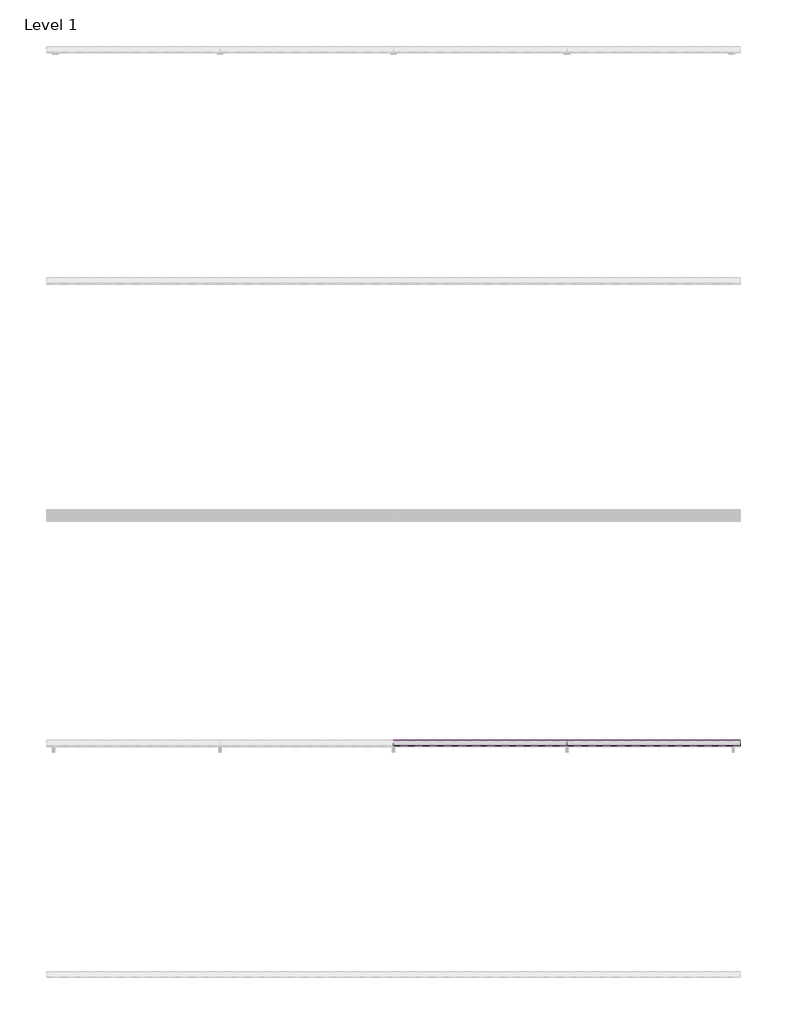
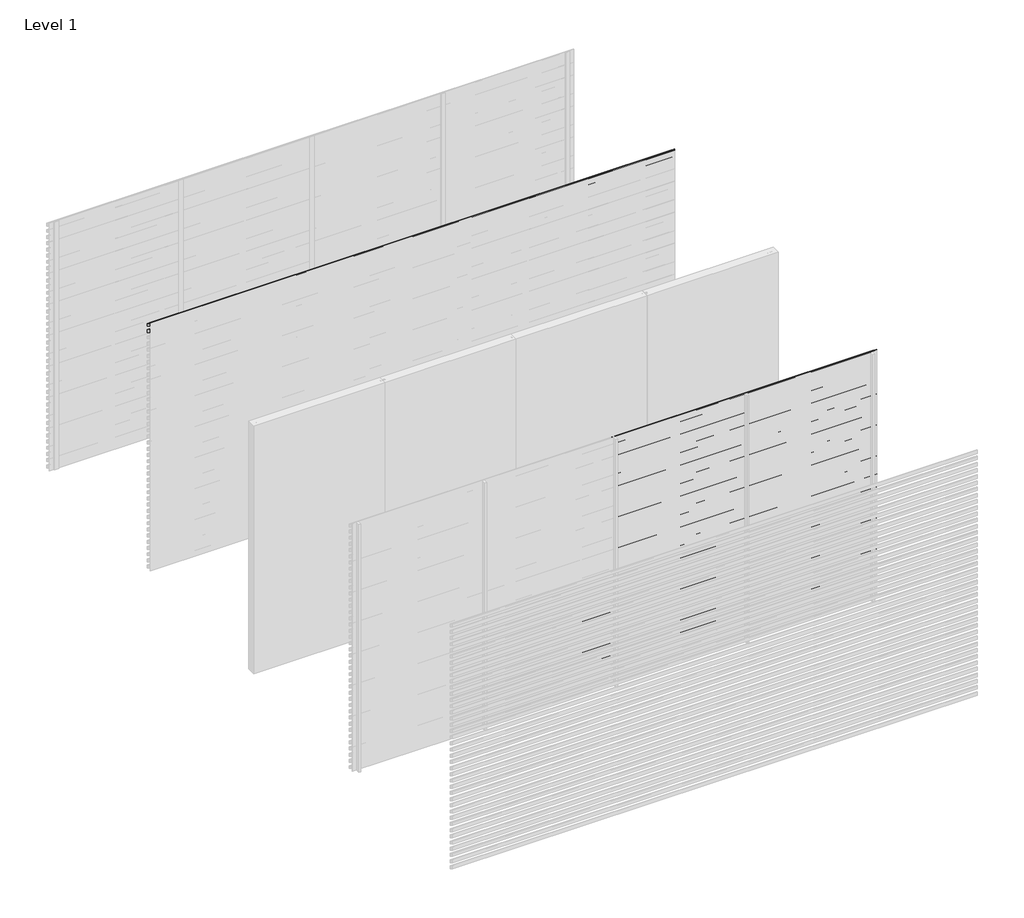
# One storey, part 7 of 9: 95 proxies.
"""IFC4 building model written with IfcOpenShell, lengths in millimetres."""

from ifc_helpers import new_model, si_unit, frame, origin, place, context, project, spatial, polyline, outline, extrude, element, save

model = new_model("IFC4")

# Units and contexts
model_context = context("Model", 3, world=origin())
ifc_project = project(units=[si_unit("LENGTHUNIT", "METRE", prefix="MILLI")], contexts=[model_context])

# Site, building, storey
site = spatial("IfcSite", under=ifc_project)
building = spatial("IfcBuilding", under=site)
storey = spatial("IfcBuildingStorey", under=building, Name="Level 1", Elevation=0.0)

# Proxies
placement = place(None, origin())
element("IfcBuildingElementProxy", 1, Name="Wall Sweeps", at=placement, inside=storey, context=model_context, shape_type="SweptSolid", body=[
    extrude(outline(polyline([(-1995.0, 3000.0), (-1995.0, 2991.2901632), (-1946.0, 2963.0), (-1946.0, 2928.0), (-1997.0, 2957.4448637), (-1997.0, 3000.0), (-1995.0, 3000.0)])), frame((0.0, 0.0, 0.0), z_axis=(1.0, 0.0, 0.0), x_axis=(0.0, 1.0, 0.0)), (0.0, 0.0, 1.0), 6000.0),
])
element("IfcBuildingElementProxy", 2, Name="Wall Sweeps", at=placement, inside=storey, context=model_context, shape_type="SweptSolid", body=[
    extrude(outline(polyline([(-1995.0, 2925.0), (-1995.0, 2916.2901632), (-1946.0, 2888.0), (-1946.0, 2853.0), (-1997.0, 2882.4448637), (-1997.0, 2925.0), (-1995.0, 2925.0)])), frame((0.0, 0.0, 0.0), z_axis=(1.0, 0.0, 0.0), x_axis=(0.0, 1.0, 0.0)), (0.0, 0.0, 1.0), 6000.0),
])
element("IfcBuildingElementProxy", 3, Name="Wall Sweeps", at=placement, inside=storey, context=model_context, shape_type="SweptSolid", body=[
    extrude(outline(polyline([(-5995.0, 975.0), (-5995.0, 966.2901632), (-5946.0, 938.0), (-5946.0, 903.0), (-5997.0, 932.4448637), (-5997.0, 975.0), (-5995.0, 975.0)])), frame((1500.0, 0.0, 0.0), z_axis=(1.0, 0.0, 0.0), x_axis=(0.0, 1.0, 0.0)), (0.0, 0.0, 1.0), 1500.0),
])
element("IfcBuildingElementProxy", 4, Name="Wall Sweeps", at=placement, inside=storey, context=model_context, shape_type="SweptSolid", body=[
    extrude(outline(polyline([(-5995.0, 900.0), (-5995.0, 891.2901632), (-5946.0, 863.0), (-5946.0, 828.0), (-5997.0, 857.4448637), (-5997.0, 900.0), (-5995.0, 900.0)])), frame((1500.0, 0.0, 0.0), z_axis=(1.0, 0.0, 0.0), x_axis=(0.0, 1.0, 0.0)), (0.0, 0.0, 1.0), 1500.0),
])
element("IfcBuildingElementProxy", 5, Name="Wall Sweeps", at=placement, inside=storey, context=model_context, shape_type="SweptSolid", body=[
    extrude(outline(polyline([(-5995.0, 825.0), (-5995.0, 816.2901632), (-5946.0, 788.0), (-5946.0, 753.0), (-5997.0, 782.4448637), (-5997.0, 825.0), (-5995.0, 825.0)])), frame((1500.0, 0.0, 0.0), z_axis=(1.0, 0.0, 0.0), x_axis=(0.0, 1.0, 0.0)), (0.0, 0.0, 1.0), 1500.0),
])
element("IfcBuildingElementProxy", 6, Name="Wall Sweeps", at=placement, inside=storey, context=model_context, shape_type="SweptSolid", body=[
    extrude(outline(polyline([(-5995.0, 750.0), (-5995.0, 741.2901632), (-5946.0, 713.0), (-5946.0, 678.0), (-5997.0, 707.4448637), (-5997.0, 750.0), (-5995.0, 750.0)])), frame((1500.0, 0.0, 0.0), z_axis=(1.0, 0.0, 0.0), x_axis=(0.0, 1.0, 0.0)), (0.0, 0.0, 1.0), 1500.0),
])
element("IfcBuildingElementProxy", 7, Name="Wall Sweeps", at=placement, inside=storey, context=model_context, shape_type="SweptSolid", body=[
    extrude(outline(polyline([(-5995.0, 675.0), (-5995.0, 666.2901632), (-5946.0, 638.0), (-5946.0, 603.0), (-5997.0, 632.4448637), (-5997.0, 675.0), (-5995.0, 675.0)])), frame((1500.0, 0.0, 0.0), z_axis=(1.0, 0.0, 0.0), x_axis=(0.0, 1.0, 0.0)), (0.0, 0.0, 1.0), 1500.0),
])
element("IfcBuildingElementProxy", 8, Name="Wall Sweeps", at=placement, inside=storey, context=model_context, shape_type="SweptSolid", body=[
    extrude(outline(polyline([(-5995.0, 600.0), (-5995.0, 591.2901632), (-5946.0, 563.0), (-5946.0, 528.0), (-5997.0, 557.4448637), (-5997.0, 600.0), (-5995.0, 600.0)])), frame((1500.0, 0.0, 0.0), z_axis=(1.0, 0.0, 0.0), x_axis=(0.0, 1.0, 0.0)), (0.0, 0.0, 1.0), 1500.0),
])
element("IfcBuildingElementProxy", 9, Name="Wall Sweeps", at=placement, inside=storey, context=model_context, shape_type="SweptSolid", body=[
    extrude(outline(polyline([(-5995.0, 525.0), (-5995.0, 516.2901632), (-5946.0, 488.0), (-5946.0, 453.0), (-5997.0, 482.4448637), (-5997.0, 525.0), (-5995.0, 525.0)])), frame((1500.0, 0.0, 0.0), z_axis=(1.0, 0.0, 0.0), x_axis=(0.0, 1.0, 0.0)), (0.0, 0.0, 1.0), 1500.0),
])
element("IfcBuildingElementProxy", 10, Name="Wall Sweeps", at=placement, inside=storey, context=model_context, shape_type="SweptSolid", body=[
    extrude(outline(polyline([(-5995.0, 450.0), (-5995.0, 441.2901632), (-5946.0, 413.0), (-5946.0, 378.0), (-5997.0, 407.4448637), (-5997.0, 450.0), (-5995.0, 450.0)])), frame((1500.0, 0.0, 0.0), z_axis=(1.0, 0.0, 0.0), x_axis=(0.0, 1.0, 0.0)), (0.0, 0.0, 1.0), 1500.0),
])
element("IfcBuildingElementProxy", 11, Name="Wall Sweeps", at=placement, inside=storey, context=model_context, shape_type="SweptSolid", body=[
    extrude(outline(polyline([(-5995.0, 375.0), (-5995.0, 366.2901632), (-5946.0, 338.0), (-5946.0, 303.0), (-5997.0, 332.4448637), (-5997.0, 375.0), (-5995.0, 375.0)])), frame((1500.0, 0.0, 0.0), z_axis=(1.0, 0.0, 0.0), x_axis=(0.0, 1.0, 0.0)), (0.0, 0.0, 1.0), 1500.0),
])
element("IfcBuildingElementProxy", 12, Name="Wall Sweeps", at=placement, inside=storey, context=model_context, shape_type="SweptSolid", body=[
    extrude(outline(polyline([(-5995.0, 300.0), (-5995.0, 291.2901632), (-5946.0, 263.0), (-5946.0, 228.0), (-5997.0, 257.4448637), (-5997.0, 300.0), (-5995.0, 300.0)])), frame((1500.0, 0.0, 0.0), z_axis=(1.0, 0.0, 0.0), x_axis=(0.0, 1.0, 0.0)), (0.0, 0.0, 1.0), 1500.0),
])
element("IfcBuildingElementProxy", 13, Name="Wall Sweeps", at=placement, inside=storey, context=model_context, shape_type="SweptSolid", body=[
    extrude(outline(polyline([(-5995.0, 225.0), (-5995.0, 216.2901632), (-5946.0, 188.0), (-5946.0, 153.0), (-5997.0, 182.4448637), (-5997.0, 225.0), (-5995.0, 225.0)])), frame((1500.0, 0.0, 0.0), z_axis=(1.0, 0.0, 0.0), x_axis=(0.0, 1.0, 0.0)), (0.0, 0.0, 1.0), 1500.0),
])
element("IfcBuildingElementProxy", 14, Name="Wall Sweeps", at=placement, inside=storey, context=model_context, shape_type="SweptSolid", body=[
    extrude(outline(polyline([(-5995.0, 150.0), (-5995.0, 141.2901632), (-5946.0, 113.0), (-5946.0, 78.0), (-5997.0, 107.4448637), (-5997.0, 150.0), (-5995.0, 150.0)])), frame((1500.0, 0.0, 0.0), z_axis=(1.0, 0.0, 0.0), x_axis=(0.0, 1.0, 0.0)), (0.0, 0.0, 1.0), 1500.0),
])
element("IfcBuildingElementProxy", 15, Name="Wall Sweeps", at=placement, inside=storey, context=model_context, shape_type="SweptSolid", body=[
    extrude(outline(polyline([(-5995.0, 75.0), (-5995.0, 66.2901632), (-5946.0, 38.0), (-5946.0, 3.0), (-5997.0, 32.4448637), (-5997.0, 75.0), (-5995.0, 75.0)])), frame((1500.0, 0.0, 0.0), z_axis=(1.0, 0.0, 0.0), x_axis=(0.0, 1.0, 0.0)), (0.0, 0.0, 1.0), 1500.0),
])
element("IfcBuildingElementProxy", 16, Name="Wall Sweeps", at=placement, inside=storey, context=model_context, shape_type="SweptSolid", body=[
    extrude(outline(polyline([(-5995.0, 3000.0), (-5995.0, 2991.2901632), (-5946.0, 2963.0), (-5946.0, 2928.0), (-5997.0, 2957.4448637), (-5997.0, 3000.0), (-5995.0, 3000.0)])), frame((3000.0, 0.0, 0.0), z_axis=(1.0, 0.0, 0.0), x_axis=(0.0, 1.0, 0.0)), (0.0, 0.0, 1.0), 1500.0),
])
element("IfcBuildingElementProxy", 17, Name="Wall Sweeps", at=placement, inside=storey, context=model_context, shape_type="SweptSolid", body=[
    extrude(outline(polyline([(-5995.0, 2925.0), (-5995.0, 2916.2901632), (-5946.0, 2888.0), (-5946.0, 2853.0), (-5997.0, 2882.4448637), (-5997.0, 2925.0), (-5995.0, 2925.0)])), frame((3000.0, 0.0, 0.0), z_axis=(1.0, 0.0, 0.0), x_axis=(0.0, 1.0, 0.0)), (0.0, 0.0, 1.0), 1500.0),
])
element("IfcBuildingElementProxy", 18, Name="Wall Sweeps", at=placement, inside=storey, context=model_context, shape_type="SweptSolid", body=[
    extrude(outline(polyline([(-5995.0, 2850.0), (-5995.0, 2841.2901632), (-5946.0, 2813.0), (-5946.0, 2778.0), (-5997.0, 2807.4448637), (-5997.0, 2850.0), (-5995.0, 2850.0)])), frame((3000.0, 0.0, 0.0), z_axis=(1.0, 0.0, 0.0), x_axis=(0.0, 1.0, 0.0)), (0.0, 0.0, 1.0), 1500.0),
])
element("IfcBuildingElementProxy", 19, Name="Wall Sweeps", at=placement, inside=storey, context=model_context, shape_type="SweptSolid", body=[
    extrude(outline(polyline([(-5995.0, 2775.0), (-5995.0, 2766.2901632), (-5946.0, 2738.0), (-5946.0, 2703.0), (-5997.0, 2732.4448637), (-5997.0, 2775.0), (-5995.0, 2775.0)])), frame((3000.0, 0.0, 0.0), z_axis=(1.0, 0.0, 0.0), x_axis=(0.0, 1.0, 0.0)), (0.0, 0.0, 1.0), 1500.0),
])
element("IfcBuildingElementProxy", 20, Name="Wall Sweeps", at=placement, inside=storey, context=model_context, shape_type="SweptSolid", body=[
    extrude(outline(polyline([(-5995.0, 2700.0), (-5995.0, 2691.2901632), (-5946.0, 2663.0), (-5946.0, 2628.0), (-5997.0, 2657.4448637), (-5997.0, 2700.0), (-5995.0, 2700.0)])), frame((3000.0, 0.0, 0.0), z_axis=(1.0, 0.0, 0.0), x_axis=(0.0, 1.0, 0.0)), (0.0, 0.0, 1.0), 1500.0),
])
element("IfcBuildingElementProxy", 21, Name="Wall Sweeps", at=placement, inside=storey, context=model_context, shape_type="SweptSolid", body=[
    extrude(outline(polyline([(-5995.0, 2625.0), (-5995.0, 2616.2901632), (-5946.0, 2588.0), (-5946.0, 2553.0), (-5997.0, 2582.4448637), (-5997.0, 2625.0), (-5995.0, 2625.0)])), frame((3000.0, 0.0, 0.0), z_axis=(1.0, 0.0, 0.0), x_axis=(0.0, 1.0, 0.0)), (0.0, 0.0, 1.0), 1500.0),
])
element("IfcBuildingElementProxy", 22, Name="Wall Sweeps", at=placement, inside=storey, context=model_context, shape_type="SweptSolid", body=[
    extrude(outline(polyline([(-5995.0, 2550.0), (-5995.0, 2541.2901632), (-5946.0, 2513.0), (-5946.0, 2478.0), (-5997.0, 2507.4448637), (-5997.0, 2550.0), (-5995.0, 2550.0)])), frame((3000.0, 0.0, 0.0), z_axis=(1.0, 0.0, 0.0), x_axis=(0.0, 1.0, 0.0)), (0.0, 0.0, 1.0), 1500.0),
])
element("IfcBuildingElementProxy", 23, Name="Wall Sweeps", at=placement, inside=storey, context=model_context, shape_type="SweptSolid", body=[
    extrude(outline(polyline([(-5995.0, 2475.0), (-5995.0, 2466.2901632), (-5946.0, 2438.0), (-5946.0, 2403.0), (-5997.0, 2432.4448637), (-5997.0, 2475.0), (-5995.0, 2475.0)])), frame((3000.0, 0.0, 0.0), z_axis=(1.0, 0.0, 0.0), x_axis=(0.0, 1.0, 0.0)), (0.0, 0.0, 1.0), 1500.0),
])
element("IfcBuildingElementProxy", 24, Name="Wall Sweeps", at=placement, inside=storey, context=model_context, shape_type="SweptSolid", body=[
    extrude(outline(polyline([(-5995.0, 2400.0), (-5995.0, 2391.2901632), (-5946.0, 2363.0), (-5946.0, 2328.0), (-5997.0, 2357.4448637), (-5997.0, 2400.0), (-5995.0, 2400.0)])), frame((3000.0, 0.0, 0.0), z_axis=(1.0, 0.0, 0.0), x_axis=(0.0, 1.0, 0.0)), (0.0, 0.0, 1.0), 1500.0),
])
element("IfcBuildingElementProxy", 25, Name="Wall Sweeps", at=placement, inside=storey, context=model_context, shape_type="SweptSolid", body=[
    extrude(outline(polyline([(-5995.0, 2325.0), (-5995.0, 2316.2901632), (-5946.0, 2288.0), (-5946.0, 2253.0), (-5997.0, 2282.4448637), (-5997.0, 2325.0), (-5995.0, 2325.0)])), frame((3000.0, 0.0, 0.0), z_axis=(1.0, 0.0, 0.0), x_axis=(0.0, 1.0, 0.0)), (0.0, 0.0, 1.0), 1500.0),
])
element("IfcBuildingElementProxy", 26, Name="Wall Sweeps", at=placement, inside=storey, context=model_context, shape_type="SweptSolid", body=[
    extrude(outline(polyline([(-5995.0, 2250.0), (-5995.0, 2241.2901632), (-5946.0, 2213.0), (-5946.0, 2178.0), (-5997.0, 2207.4448637), (-5997.0, 2250.0), (-5995.0, 2250.0)])), frame((3000.0, 0.0, 0.0), z_axis=(1.0, 0.0, 0.0), x_axis=(0.0, 1.0, 0.0)), (0.0, 0.0, 1.0), 1500.0),
])
element("IfcBuildingElementProxy", 27, Name="Wall Sweeps", at=placement, inside=storey, context=model_context, shape_type="SweptSolid", body=[
    extrude(outline(polyline([(-5995.0, 2175.0), (-5995.0, 2166.2901632), (-5946.0, 2138.0), (-5946.0, 2103.0), (-5997.0, 2132.4448637), (-5997.0, 2175.0), (-5995.0, 2175.0)])), frame((3000.0, 0.0, 0.0), z_axis=(1.0, 0.0, 0.0), x_axis=(0.0, 1.0, 0.0)), (0.0, 0.0, 1.0), 1500.0),
])
element("IfcBuildingElementProxy", 28, Name="Wall Sweeps", at=placement, inside=storey, context=model_context, shape_type="SweptSolid", body=[
    extrude(outline(polyline([(-5995.0, 2100.0), (-5995.0, 2091.2901632), (-5946.0, 2063.0), (-5946.0, 2028.0), (-5997.0, 2057.4448637), (-5997.0, 2100.0), (-5995.0, 2100.0)])), frame((3000.0, 0.0, 0.0), z_axis=(1.0, 0.0, 0.0), x_axis=(0.0, 1.0, 0.0)), (0.0, 0.0, 1.0), 1500.0),
])
element("IfcBuildingElementProxy", 29, Name="Wall Sweeps", at=placement, inside=storey, context=model_context, shape_type="SweptSolid", body=[
    extrude(outline(polyline([(-5995.0, 2025.0), (-5995.0, 2016.2901632), (-5946.0, 1988.0), (-5946.0, 1953.0), (-5997.0, 1982.4448637), (-5997.0, 2025.0), (-5995.0, 2025.0)])), frame((3000.0, 0.0, 0.0), z_axis=(1.0, 0.0, 0.0), x_axis=(0.0, 1.0, 0.0)), (0.0, 0.0, 1.0), 1500.0),
])
element("IfcBuildingElementProxy", 30, Name="Wall Sweeps", at=placement, inside=storey, context=model_context, shape_type="SweptSolid", body=[
    extrude(outline(polyline([(-5995.0, 1950.0), (-5995.0, 1941.2901632), (-5946.0, 1913.0), (-5946.0, 1878.0), (-5997.0, 1907.4448637), (-5997.0, 1950.0), (-5995.0, 1950.0)])), frame((3000.0, 0.0, 0.0), z_axis=(1.0, 0.0, 0.0), x_axis=(0.0, 1.0, 0.0)), (0.0, 0.0, 1.0), 1500.0),
])
element("IfcBuildingElementProxy", 31, Name="Wall Sweeps", at=placement, inside=storey, context=model_context, shape_type="SweptSolid", body=[
    extrude(outline(polyline([(-5995.0, 1875.0), (-5995.0, 1866.2901632), (-5946.0, 1838.0), (-5946.0, 1803.0), (-5997.0, 1832.4448637), (-5997.0, 1875.0), (-5995.0, 1875.0)])), frame((3000.0, 0.0, 0.0), z_axis=(1.0, 0.0, 0.0), x_axis=(0.0, 1.0, 0.0)), (0.0, 0.0, 1.0), 1500.0),
])
element("IfcBuildingElementProxy", 32, Name="Wall Sweeps", at=placement, inside=storey, context=model_context, shape_type="SweptSolid", body=[
    extrude(outline(polyline([(-5995.0, 1800.0), (-5995.0, 1791.2901632), (-5946.0, 1763.0), (-5946.0, 1728.0), (-5997.0, 1757.4448637), (-5997.0, 1800.0), (-5995.0, 1800.0)])), frame((3000.0, 0.0, 0.0), z_axis=(1.0, 0.0, 0.0), x_axis=(0.0, 1.0, 0.0)), (0.0, 0.0, 1.0), 1500.0),
])
element("IfcBuildingElementProxy", 33, Name="Wall Sweeps", at=placement, inside=storey, context=model_context, shape_type="SweptSolid", body=[
    extrude(outline(polyline([(-5995.0, 1725.0), (-5995.0, 1716.2901632), (-5946.0, 1688.0), (-5946.0, 1653.0), (-5997.0, 1682.4448637), (-5997.0, 1725.0), (-5995.0, 1725.0)])), frame((3000.0, 0.0, 0.0), z_axis=(1.0, 0.0, 0.0), x_axis=(0.0, 1.0, 0.0)), (0.0, 0.0, 1.0), 1500.0),
])
element("IfcBuildingElementProxy", 34, Name="Wall Sweeps", at=placement, inside=storey, context=model_context, shape_type="SweptSolid", body=[
    extrude(outline(polyline([(-5995.0, 1650.0), (-5995.0, 1641.2901632), (-5946.0, 1613.0), (-5946.0, 1578.0), (-5997.0, 1607.4448637), (-5997.0, 1650.0), (-5995.0, 1650.0)])), frame((3000.0, 0.0, 0.0), z_axis=(1.0, 0.0, 0.0), x_axis=(0.0, 1.0, 0.0)), (0.0, 0.0, 1.0), 1500.0),
])
element("IfcBuildingElementProxy", 35, Name="Wall Sweeps", at=placement, inside=storey, context=model_context, shape_type="SweptSolid", body=[
    extrude(outline(polyline([(-5995.0, 1575.0), (-5995.0, 1566.2901632), (-5946.0, 1538.0), (-5946.0, 1503.0), (-5997.0, 1532.4448637), (-5997.0, 1575.0), (-5995.0, 1575.0)])), frame((3000.0, 0.0, 0.0), z_axis=(1.0, 0.0, 0.0), x_axis=(0.0, 1.0, 0.0)), (0.0, 0.0, 1.0), 1500.0),
])
element("IfcBuildingElementProxy", 36, Name="Wall Sweeps", at=placement, inside=storey, context=model_context, shape_type="SweptSolid", body=[
    extrude(outline(polyline([(-5995.0, 1500.0), (-5995.0, 1491.2901632), (-5946.0, 1463.0), (-5946.0, 1428.0), (-5997.0, 1457.4448637), (-5997.0, 1500.0), (-5995.0, 1500.0)])), frame((3000.0, 0.0, 0.0), z_axis=(1.0, 0.0, 0.0), x_axis=(0.0, 1.0, 0.0)), (0.0, 0.0, 1.0), 1500.0),
])
element("IfcBuildingElementProxy", 37, Name="Wall Sweeps", at=placement, inside=storey, context=model_context, shape_type="SweptSolid", body=[
    extrude(outline(polyline([(-5995.0, 1425.0), (-5995.0, 1416.2901632), (-5946.0, 1388.0), (-5946.0, 1353.0), (-5997.0, 1382.4448637), (-5997.0, 1425.0), (-5995.0, 1425.0)])), frame((3000.0, 0.0, 0.0), z_axis=(1.0, 0.0, 0.0), x_axis=(0.0, 1.0, 0.0)), (0.0, 0.0, 1.0), 1500.0),
])
element("IfcBuildingElementProxy", 38, Name="Wall Sweeps", at=placement, inside=storey, context=model_context, shape_type="SweptSolid", body=[
    extrude(outline(polyline([(-5995.0, 1350.0), (-5995.0, 1341.2901632), (-5946.0, 1313.0), (-5946.0, 1278.0), (-5997.0, 1307.4448637), (-5997.0, 1350.0), (-5995.0, 1350.0)])), frame((3000.0, 0.0, 0.0), z_axis=(1.0, 0.0, 0.0), x_axis=(0.0, 1.0, 0.0)), (0.0, 0.0, 1.0), 1500.0),
])
element("IfcBuildingElementProxy", 39, Name="Wall Sweeps", at=placement, inside=storey, context=model_context, shape_type="SweptSolid", body=[
    extrude(outline(polyline([(-5995.0, 1275.0), (-5995.0, 1266.2901632), (-5946.0, 1238.0), (-5946.0, 1203.0), (-5997.0, 1232.4448637), (-5997.0, 1275.0), (-5995.0, 1275.0)])), frame((3000.0, 0.0, 0.0), z_axis=(1.0, 0.0, 0.0), x_axis=(0.0, 1.0, 0.0)), (0.0, 0.0, 1.0), 1500.0),
])
element("IfcBuildingElementProxy", 40, Name="Wall Sweeps", at=placement, inside=storey, context=model_context, shape_type="SweptSolid", body=[
    extrude(outline(polyline([(-5995.0, 1200.0), (-5995.0, 1191.2901632), (-5946.0, 1163.0), (-5946.0, 1128.0), (-5997.0, 1157.4448637), (-5997.0, 1200.0), (-5995.0, 1200.0)])), frame((3000.0, 0.0, 0.0), z_axis=(1.0, 0.0, 0.0), x_axis=(0.0, 1.0, 0.0)), (0.0, 0.0, 1.0), 1500.0),
])
element("IfcBuildingElementProxy", 41, Name="Wall Sweeps", at=placement, inside=storey, context=model_context, shape_type="SweptSolid", body=[
    extrude(outline(polyline([(-5995.0, 1125.0), (-5995.0, 1116.2901632), (-5946.0, 1088.0), (-5946.0, 1053.0), (-5997.0, 1082.4448637), (-5997.0, 1125.0), (-5995.0, 1125.0)])), frame((3000.0, 0.0, 0.0), z_axis=(1.0, 0.0, 0.0), x_axis=(0.0, 1.0, 0.0)), (0.0, 0.0, 1.0), 1500.0),
])
element("IfcBuildingElementProxy", 42, Name="Wall Sweeps", at=placement, inside=storey, context=model_context, shape_type="SweptSolid", body=[
    extrude(outline(polyline([(-5995.0, 1050.0), (-5995.0, 1041.2901632), (-5946.0, 1013.0), (-5946.0, 978.0), (-5997.0, 1007.4448637), (-5997.0, 1050.0), (-5995.0, 1050.0)])), frame((3000.0, 0.0, 0.0), z_axis=(1.0, 0.0, 0.0), x_axis=(0.0, 1.0, 0.0)), (0.0, 0.0, 1.0), 1500.0),
])
element("IfcBuildingElementProxy", 43, Name="Wall Sweeps", at=placement, inside=storey, context=model_context, shape_type="SweptSolid", body=[
    extrude(outline(polyline([(-5995.0, 975.0), (-5995.0, 966.2901632), (-5946.0, 938.0), (-5946.0, 903.0), (-5997.0, 932.4448637), (-5997.0, 975.0), (-5995.0, 975.0)])), frame((3000.0, 0.0, 0.0), z_axis=(1.0, 0.0, 0.0), x_axis=(0.0, 1.0, 0.0)), (0.0, 0.0, 1.0), 1500.0),
])
element("IfcBuildingElementProxy", 44, Name="Wall Sweeps", at=placement, inside=storey, context=model_context, shape_type="SweptSolid", body=[
    extrude(outline(polyline([(-5995.0, 900.0), (-5995.0, 891.2901632), (-5946.0, 863.0), (-5946.0, 828.0), (-5997.0, 857.4448637), (-5997.0, 900.0), (-5995.0, 900.0)])), frame((3000.0, 0.0, 0.0), z_axis=(1.0, 0.0, 0.0), x_axis=(0.0, 1.0, 0.0)), (0.0, 0.0, 1.0), 1500.0),
])
element("IfcBuildingElementProxy", 45, Name="Wall Sweeps", at=placement, inside=storey, context=model_context, shape_type="SweptSolid", body=[
    extrude(outline(polyline([(-5995.0, 825.0), (-5995.0, 816.2901632), (-5946.0, 788.0), (-5946.0, 753.0), (-5997.0, 782.4448637), (-5997.0, 825.0), (-5995.0, 825.0)])), frame((3000.0, 0.0, 0.0), z_axis=(1.0, 0.0, 0.0), x_axis=(0.0, 1.0, 0.0)), (0.0, 0.0, 1.0), 1500.0),
])
element("IfcBuildingElementProxy", 46, Name="Wall Sweeps", at=placement, inside=storey, context=model_context, shape_type="SweptSolid", body=[
    extrude(outline(polyline([(-5995.0, 750.0), (-5995.0, 741.2901632), (-5946.0, 713.0), (-5946.0, 678.0), (-5997.0, 707.4448637), (-5997.0, 750.0), (-5995.0, 750.0)])), frame((3000.0, 0.0, 0.0), z_axis=(1.0, 0.0, 0.0), x_axis=(0.0, 1.0, 0.0)), (0.0, 0.0, 1.0), 1500.0),
])
element("IfcBuildingElementProxy", 47, Name="Wall Sweeps", at=placement, inside=storey, context=model_context, shape_type="SweptSolid", body=[
    extrude(outline(polyline([(-5995.0, 675.0), (-5995.0, 666.2901632), (-5946.0, 638.0), (-5946.0, 603.0), (-5997.0, 632.4448637), (-5997.0, 675.0), (-5995.0, 675.0)])), frame((3000.0, 0.0, 0.0), z_axis=(1.0, 0.0, 0.0), x_axis=(0.0, 1.0, 0.0)), (0.0, 0.0, 1.0), 1500.0),
])
element("IfcBuildingElementProxy", 48, Name="Wall Sweeps", at=placement, inside=storey, context=model_context, shape_type="SweptSolid", body=[
    extrude(outline(polyline([(-5995.0, 600.0), (-5995.0, 591.2901632), (-5946.0, 563.0), (-5946.0, 528.0), (-5997.0, 557.4448637), (-5997.0, 600.0), (-5995.0, 600.0)])), frame((3000.0, 0.0, 0.0), z_axis=(1.0, 0.0, 0.0), x_axis=(0.0, 1.0, 0.0)), (0.0, 0.0, 1.0), 1500.0),
])
element("IfcBuildingElementProxy", 49, Name="Wall Sweeps", at=placement, inside=storey, context=model_context, shape_type="SweptSolid", body=[
    extrude(outline(polyline([(-5995.0, 525.0), (-5995.0, 516.2901632), (-5946.0, 488.0), (-5946.0, 453.0), (-5997.0, 482.4448637), (-5997.0, 525.0), (-5995.0, 525.0)])), frame((3000.0, 0.0, 0.0), z_axis=(1.0, 0.0, 0.0), x_axis=(0.0, 1.0, 0.0)), (0.0, 0.0, 1.0), 1500.0),
])
element("IfcBuildingElementProxy", 50, Name="Wall Sweeps", at=placement, inside=storey, context=model_context, shape_type="SweptSolid", body=[
    extrude(outline(polyline([(-5995.0, 450.0), (-5995.0, 441.2901632), (-5946.0, 413.0), (-5946.0, 378.0), (-5997.0, 407.4448637), (-5997.0, 450.0), (-5995.0, 450.0)])), frame((3000.0, 0.0, 0.0), z_axis=(1.0, 0.0, 0.0), x_axis=(0.0, 1.0, 0.0)), (0.0, 0.0, 1.0), 1500.0),
])
element("IfcBuildingElementProxy", 51, Name="Wall Sweeps", at=placement, inside=storey, context=model_context, shape_type="SweptSolid", body=[
    extrude(outline(polyline([(-5995.0, 375.0), (-5995.0, 366.2901632), (-5946.0, 338.0), (-5946.0, 303.0), (-5997.0, 332.4448637), (-5997.0, 375.0), (-5995.0, 375.0)])), frame((3000.0, 0.0, 0.0), z_axis=(1.0, 0.0, 0.0), x_axis=(0.0, 1.0, 0.0)), (0.0, 0.0, 1.0), 1500.0),
])
element("IfcBuildingElementProxy", 52, Name="Wall Sweeps", at=placement, inside=storey, context=model_context, shape_type="SweptSolid", body=[
    extrude(outline(polyline([(-5995.0, 300.0), (-5995.0, 291.2901632), (-5946.0, 263.0), (-5946.0, 228.0), (-5997.0, 257.4448637), (-5997.0, 300.0), (-5995.0, 300.0)])), frame((3000.0, 0.0, 0.0), z_axis=(1.0, 0.0, 0.0), x_axis=(0.0, 1.0, 0.0)), (0.0, 0.0, 1.0), 1500.0),
])
element("IfcBuildingElementProxy", 53, Name="Wall Sweeps", at=placement, inside=storey, context=model_context, shape_type="SweptSolid", body=[
    extrude(outline(polyline([(-5995.0, 225.0), (-5995.0, 216.2901632), (-5946.0, 188.0), (-5946.0, 153.0), (-5997.0, 182.4448637), (-5997.0, 225.0), (-5995.0, 225.0)])), frame((3000.0, 0.0, 0.0), z_axis=(1.0, 0.0, 0.0), x_axis=(0.0, 1.0, 0.0)), (0.0, 0.0, 1.0), 1500.0),
])
element("IfcBuildingElementProxy", 54, Name="Wall Sweeps", at=placement, inside=storey, context=model_context, shape_type="SweptSolid", body=[
    extrude(outline(polyline([(-5995.0, 150.0), (-5995.0, 141.2901632), (-5946.0, 113.0), (-5946.0, 78.0), (-5997.0, 107.4448637), (-5997.0, 150.0), (-5995.0, 150.0)])), frame((3000.0, 0.0, 0.0), z_axis=(1.0, 0.0, 0.0), x_axis=(0.0, 1.0, 0.0)), (0.0, 0.0, 1.0), 1500.0),
])
element("IfcBuildingElementProxy", 55, Name="Wall Sweeps", at=placement, inside=storey, context=model_context, shape_type="SweptSolid", body=[
    extrude(outline(polyline([(-5995.0, 75.0), (-5995.0, 66.2901632), (-5946.0, 38.0), (-5946.0, 3.0), (-5997.0, 32.4448637), (-5997.0, 75.0), (-5995.0, 75.0)])), frame((3000.0, 0.0, 0.0), z_axis=(1.0, 0.0, 0.0), x_axis=(0.0, 1.0, 0.0)), (0.0, 0.0, 1.0), 1500.0),
])
element("IfcBuildingElementProxy", 56, Name="Wall Sweeps", at=placement, inside=storey, context=model_context, shape_type="SweptSolid", body=[
    extrude(outline(polyline([(-5995.0, 3000.0), (-5995.0, 2991.2901632), (-5946.0, 2963.0), (-5946.0, 2928.0), (-5997.0, 2957.4448637), (-5997.0, 3000.0), (-5995.0, 3000.0)])), frame((4500.0, 0.0, 0.0), z_axis=(1.0, 0.0, 0.0), x_axis=(0.0, 1.0, 0.0)), (0.0, 0.0, 1.0), 1500.0),
])
element("IfcBuildingElementProxy", 57, Name="Wall Sweeps", at=placement, inside=storey, context=model_context, shape_type="SweptSolid", body=[
    extrude(outline(polyline([(-5995.0, 2925.0), (-5995.0, 2916.2901632), (-5946.0, 2888.0), (-5946.0, 2853.0), (-5997.0, 2882.4448637), (-5997.0, 2925.0), (-5995.0, 2925.0)])), frame((4500.0, 0.0, 0.0), z_axis=(1.0, 0.0, 0.0), x_axis=(0.0, 1.0, 0.0)), (0.0, 0.0, 1.0), 1500.0),
])
element("IfcBuildingElementProxy", 58, Name="Wall Sweeps", at=placement, inside=storey, context=model_context, shape_type="SweptSolid", body=[
    extrude(outline(polyline([(-5995.0, 2850.0), (-5995.0, 2841.2901632), (-5946.0, 2813.0), (-5946.0, 2778.0), (-5997.0, 2807.4448637), (-5997.0, 2850.0), (-5995.0, 2850.0)])), frame((4500.0, 0.0, 0.0), z_axis=(1.0, 0.0, 0.0), x_axis=(0.0, 1.0, 0.0)), (0.0, 0.0, 1.0), 1500.0),
])
element("IfcBuildingElementProxy", 59, Name="Wall Sweeps", at=placement, inside=storey, context=model_context, shape_type="SweptSolid", body=[
    extrude(outline(polyline([(-5995.0, 2775.0), (-5995.0, 2766.2901632), (-5946.0, 2738.0), (-5946.0, 2703.0), (-5997.0, 2732.4448637), (-5997.0, 2775.0), (-5995.0, 2775.0)])), frame((4500.0, 0.0, 0.0), z_axis=(1.0, 0.0, 0.0), x_axis=(0.0, 1.0, 0.0)), (0.0, 0.0, 1.0), 1500.0),
])
element("IfcBuildingElementProxy", 60, Name="Wall Sweeps", at=placement, inside=storey, context=model_context, shape_type="SweptSolid", body=[
    extrude(outline(polyline([(-5995.0, 2700.0), (-5995.0, 2691.2901632), (-5946.0, 2663.0), (-5946.0, 2628.0), (-5997.0, 2657.4448637), (-5997.0, 2700.0), (-5995.0, 2700.0)])), frame((4500.0, 0.0, 0.0), z_axis=(1.0, 0.0, 0.0), x_axis=(0.0, 1.0, 0.0)), (0.0, 0.0, 1.0), 1500.0),
])
element("IfcBuildingElementProxy", 61, Name="Wall Sweeps", at=placement, inside=storey, context=model_context, shape_type="SweptSolid", body=[
    extrude(outline(polyline([(-5995.0, 2625.0), (-5995.0, 2616.2901632), (-5946.0, 2588.0), (-5946.0, 2553.0), (-5997.0, 2582.4448637), (-5997.0, 2625.0), (-5995.0, 2625.0)])), frame((4500.0, 0.0, 0.0), z_axis=(1.0, 0.0, 0.0), x_axis=(0.0, 1.0, 0.0)), (0.0, 0.0, 1.0), 1500.0),
])
element("IfcBuildingElementProxy", 62, Name="Wall Sweeps", at=placement, inside=storey, context=model_context, shape_type="SweptSolid", body=[
    extrude(outline(polyline([(-5995.0, 2550.0), (-5995.0, 2541.2901632), (-5946.0, 2513.0), (-5946.0, 2478.0), (-5997.0, 2507.4448637), (-5997.0, 2550.0), (-5995.0, 2550.0)])), frame((4500.0, 0.0, 0.0), z_axis=(1.0, 0.0, 0.0), x_axis=(0.0, 1.0, 0.0)), (0.0, 0.0, 1.0), 1500.0),
])
element("IfcBuildingElementProxy", 63, Name="Wall Sweeps", at=placement, inside=storey, context=model_context, shape_type="SweptSolid", body=[
    extrude(outline(polyline([(-5995.0, 2475.0), (-5995.0, 2466.2901632), (-5946.0, 2438.0), (-5946.0, 2403.0), (-5997.0, 2432.4448637), (-5997.0, 2475.0), (-5995.0, 2475.0)])), frame((4500.0, 0.0, 0.0), z_axis=(1.0, 0.0, 0.0), x_axis=(0.0, 1.0, 0.0)), (0.0, 0.0, 1.0), 1500.0),
])
element("IfcBuildingElementProxy", 64, Name="Wall Sweeps", at=placement, inside=storey, context=model_context, shape_type="SweptSolid", body=[
    extrude(outline(polyline([(-5995.0, 2400.0), (-5995.0, 2391.2901632), (-5946.0, 2363.0), (-5946.0, 2328.0), (-5997.0, 2357.4448637), (-5997.0, 2400.0), (-5995.0, 2400.0)])), frame((4500.0, 0.0, 0.0), z_axis=(1.0, 0.0, 0.0), x_axis=(0.0, 1.0, 0.0)), (0.0, 0.0, 1.0), 1500.0),
])
element("IfcBuildingElementProxy", 65, Name="Wall Sweeps", at=placement, inside=storey, context=model_context, shape_type="SweptSolid", body=[
    extrude(outline(polyline([(-5995.0, 2325.0), (-5995.0, 2316.2901632), (-5946.0, 2288.0), (-5946.0, 2253.0), (-5997.0, 2282.4448637), (-5997.0, 2325.0), (-5995.0, 2325.0)])), frame((4500.0, 0.0, 0.0), z_axis=(1.0, 0.0, 0.0), x_axis=(0.0, 1.0, 0.0)), (0.0, 0.0, 1.0), 1500.0),
])
element("IfcBuildingElementProxy", 66, Name="Wall Sweeps", at=placement, inside=storey, context=model_context, shape_type="SweptSolid", body=[
    extrude(outline(polyline([(-5995.0, 2250.0), (-5995.0, 2241.2901632), (-5946.0, 2213.0), (-5946.0, 2178.0), (-5997.0, 2207.4448637), (-5997.0, 2250.0), (-5995.0, 2250.0)])), frame((4500.0, 0.0, 0.0), z_axis=(1.0, 0.0, 0.0), x_axis=(0.0, 1.0, 0.0)), (0.0, 0.0, 1.0), 1500.0),
])
element("IfcBuildingElementProxy", 67, Name="Wall Sweeps", at=placement, inside=storey, context=model_context, shape_type="SweptSolid", body=[
    extrude(outline(polyline([(-5995.0, 2175.0), (-5995.0, 2166.2901632), (-5946.0, 2138.0), (-5946.0, 2103.0), (-5997.0, 2132.4448637), (-5997.0, 2175.0), (-5995.0, 2175.0)])), frame((4500.0, 0.0, 0.0), z_axis=(1.0, 0.0, 0.0), x_axis=(0.0, 1.0, 0.0)), (0.0, 0.0, 1.0), 1500.0),
])
element("IfcBuildingElementProxy", 68, Name="Wall Sweeps", at=placement, inside=storey, context=model_context, shape_type="SweptSolid", body=[
    extrude(outline(polyline([(-5995.0, 2100.0), (-5995.0, 2091.2901632), (-5946.0, 2063.0), (-5946.0, 2028.0), (-5997.0, 2057.4448637), (-5997.0, 2100.0), (-5995.0, 2100.0)])), frame((4500.0, 0.0, 0.0), z_axis=(1.0, 0.0, 0.0), x_axis=(0.0, 1.0, 0.0)), (0.0, 0.0, 1.0), 1500.0),
])
element("IfcBuildingElementProxy", 69, Name="Wall Sweeps", at=placement, inside=storey, context=model_context, shape_type="SweptSolid", body=[
    extrude(outline(polyline([(-5995.0, 2025.0), (-5995.0, 2016.2901632), (-5946.0, 1988.0), (-5946.0, 1953.0), (-5997.0, 1982.4448637), (-5997.0, 2025.0), (-5995.0, 2025.0)])), frame((4500.0, 0.0, 0.0), z_axis=(1.0, 0.0, 0.0), x_axis=(0.0, 1.0, 0.0)), (0.0, 0.0, 1.0), 1500.0),
])
element("IfcBuildingElementProxy", 70, Name="Wall Sweeps", at=placement, inside=storey, context=model_context, shape_type="SweptSolid", body=[
    extrude(outline(polyline([(-5995.0, 1950.0), (-5995.0, 1941.2901632), (-5946.0, 1913.0), (-5946.0, 1878.0), (-5997.0, 1907.4448637), (-5997.0, 1950.0), (-5995.0, 1950.0)])), frame((4500.0, 0.0, 0.0), z_axis=(1.0, 0.0, 0.0), x_axis=(0.0, 1.0, 0.0)), (0.0, 0.0, 1.0), 1500.0),
])
element("IfcBuildingElementProxy", 71, Name="Wall Sweeps", at=placement, inside=storey, context=model_context, shape_type="SweptSolid", body=[
    extrude(outline(polyline([(-5995.0, 1875.0), (-5995.0, 1866.2901632), (-5946.0, 1838.0), (-5946.0, 1803.0), (-5997.0, 1832.4448637), (-5997.0, 1875.0), (-5995.0, 1875.0)])), frame((4500.0, 0.0, 0.0), z_axis=(1.0, 0.0, 0.0), x_axis=(0.0, 1.0, 0.0)), (0.0, 0.0, 1.0), 1500.0),
])
element("IfcBuildingElementProxy", 72, Name="Wall Sweeps", at=placement, inside=storey, context=model_context, shape_type="SweptSolid", body=[
    extrude(outline(polyline([(-5995.0, 1800.0), (-5995.0, 1791.2901632), (-5946.0, 1763.0), (-5946.0, 1728.0), (-5997.0, 1757.4448637), (-5997.0, 1800.0), (-5995.0, 1800.0)])), frame((4500.0, 0.0, 0.0), z_axis=(1.0, 0.0, 0.0), x_axis=(0.0, 1.0, 0.0)), (0.0, 0.0, 1.0), 1500.0),
])
element("IfcBuildingElementProxy", 73, Name="Wall Sweeps", at=placement, inside=storey, context=model_context, shape_type="SweptSolid", body=[
    extrude(outline(polyline([(-5995.0, 1725.0), (-5995.0, 1716.2901632), (-5946.0, 1688.0), (-5946.0, 1653.0), (-5997.0, 1682.4448637), (-5997.0, 1725.0), (-5995.0, 1725.0)])), frame((4500.0, 0.0, 0.0), z_axis=(1.0, 0.0, 0.0), x_axis=(0.0, 1.0, 0.0)), (0.0, 0.0, 1.0), 1500.0),
])
element("IfcBuildingElementProxy", 74, Name="Wall Sweeps", at=placement, inside=storey, context=model_context, shape_type="SweptSolid", body=[
    extrude(outline(polyline([(-5995.0, 1650.0), (-5995.0, 1641.2901632), (-5946.0, 1613.0), (-5946.0, 1578.0), (-5997.0, 1607.4448637), (-5997.0, 1650.0), (-5995.0, 1650.0)])), frame((4500.0, 0.0, 0.0), z_axis=(1.0, 0.0, 0.0), x_axis=(0.0, 1.0, 0.0)), (0.0, 0.0, 1.0), 1500.0),
])
element("IfcBuildingElementProxy", 75, Name="Wall Sweeps", at=placement, inside=storey, context=model_context, shape_type="SweptSolid", body=[
    extrude(outline(polyline([(-5995.0, 1575.0), (-5995.0, 1566.2901632), (-5946.0, 1538.0), (-5946.0, 1503.0), (-5997.0, 1532.4448637), (-5997.0, 1575.0), (-5995.0, 1575.0)])), frame((4500.0, 0.0, 0.0), z_axis=(1.0, 0.0, 0.0), x_axis=(0.0, 1.0, 0.0)), (0.0, 0.0, 1.0), 1500.0),
])
element("IfcBuildingElementProxy", 76, Name="Wall Sweeps", at=placement, inside=storey, context=model_context, shape_type="SweptSolid", body=[
    extrude(outline(polyline([(-5995.0, 1500.0), (-5995.0, 1491.2901632), (-5946.0, 1463.0), (-5946.0, 1428.0), (-5997.0, 1457.4448637), (-5997.0, 1500.0), (-5995.0, 1500.0)])), frame((4500.0, 0.0, 0.0), z_axis=(1.0, 0.0, 0.0), x_axis=(0.0, 1.0, 0.0)), (0.0, 0.0, 1.0), 1500.0),
])
element("IfcBuildingElementProxy", 77, Name="Wall Sweeps", at=placement, inside=storey, context=model_context, shape_type="SweptSolid", body=[
    extrude(outline(polyline([(-5995.0, 1425.0), (-5995.0, 1416.2901632), (-5946.0, 1388.0), (-5946.0, 1353.0), (-5997.0, 1382.4448637), (-5997.0, 1425.0), (-5995.0, 1425.0)])), frame((4500.0, 0.0, 0.0), z_axis=(1.0, 0.0, 0.0), x_axis=(0.0, 1.0, 0.0)), (0.0, 0.0, 1.0), 1500.0),
])
element("IfcBuildingElementProxy", 78, Name="Wall Sweeps", at=placement, inside=storey, context=model_context, shape_type="SweptSolid", body=[
    extrude(outline(polyline([(-5995.0, 1350.0), (-5995.0, 1341.2901632), (-5946.0, 1313.0), (-5946.0, 1278.0), (-5997.0, 1307.4448637), (-5997.0, 1350.0), (-5995.0, 1350.0)])), frame((4500.0, 0.0, 0.0), z_axis=(1.0, 0.0, 0.0), x_axis=(0.0, 1.0, 0.0)), (0.0, 0.0, 1.0), 1500.0),
])
element("IfcBuildingElementProxy", 79, Name="Wall Sweeps", at=placement, inside=storey, context=model_context, shape_type="SweptSolid", body=[
    extrude(outline(polyline([(-5995.0, 1275.0), (-5995.0, 1266.2901632), (-5946.0, 1238.0), (-5946.0, 1203.0), (-5997.0, 1232.4448637), (-5997.0, 1275.0), (-5995.0, 1275.0)])), frame((4500.0, 0.0, 0.0), z_axis=(1.0, 0.0, 0.0), x_axis=(0.0, 1.0, 0.0)), (0.0, 0.0, 1.0), 1500.0),
])
element("IfcBuildingElementProxy", 80, Name="Wall Sweeps", at=placement, inside=storey, context=model_context, shape_type="SweptSolid", body=[
    extrude(outline(polyline([(-5995.0, 1200.0), (-5995.0, 1191.2901632), (-5946.0, 1163.0), (-5946.0, 1128.0), (-5997.0, 1157.4448637), (-5997.0, 1200.0), (-5995.0, 1200.0)])), frame((4500.0, 0.0, 0.0), z_axis=(1.0, 0.0, 0.0), x_axis=(0.0, 1.0, 0.0)), (0.0, 0.0, 1.0), 1500.0),
])
element("IfcBuildingElementProxy", 81, Name="Wall Sweeps", at=placement, inside=storey, context=model_context, shape_type="SweptSolid", body=[
    extrude(outline(polyline([(-5995.0, 1125.0), (-5995.0, 1116.2901632), (-5946.0, 1088.0), (-5946.0, 1053.0), (-5997.0, 1082.4448637), (-5997.0, 1125.0), (-5995.0, 1125.0)])), frame((4500.0, 0.0, 0.0), z_axis=(1.0, 0.0, 0.0), x_axis=(0.0, 1.0, 0.0)), (0.0, 0.0, 1.0), 1500.0),
])
element("IfcBuildingElementProxy", 82, Name="Wall Sweeps", at=placement, inside=storey, context=model_context, shape_type="SweptSolid", body=[
    extrude(outline(polyline([(-5995.0, 1050.0), (-5995.0, 1041.2901632), (-5946.0, 1013.0), (-5946.0, 978.0), (-5997.0, 1007.4448637), (-5997.0, 1050.0), (-5995.0, 1050.0)])), frame((4500.0, 0.0, 0.0), z_axis=(1.0, 0.0, 0.0), x_axis=(0.0, 1.0, 0.0)), (0.0, 0.0, 1.0), 1500.0),
])
element("IfcBuildingElementProxy", 83, Name="Wall Sweeps", at=placement, inside=storey, context=model_context, shape_type="SweptSolid", body=[
    extrude(outline(polyline([(-5995.0, 975.0), (-5995.0, 966.2901632), (-5946.0, 938.0), (-5946.0, 903.0), (-5997.0, 932.4448637), (-5997.0, 975.0), (-5995.0, 975.0)])), frame((4500.0, 0.0, 0.0), z_axis=(1.0, 0.0, 0.0), x_axis=(0.0, 1.0, 0.0)), (0.0, 0.0, 1.0), 1500.0),
])
element("IfcBuildingElementProxy", 84, Name="Wall Sweeps", at=placement, inside=storey, context=model_context, shape_type="SweptSolid", body=[
    extrude(outline(polyline([(-5995.0, 900.0), (-5995.0, 891.2901632), (-5946.0, 863.0), (-5946.0, 828.0), (-5997.0, 857.4448637), (-5997.0, 900.0), (-5995.0, 900.0)])), frame((4500.0, 0.0, 0.0), z_axis=(1.0, 0.0, 0.0), x_axis=(0.0, 1.0, 0.0)), (0.0, 0.0, 1.0), 1500.0),
])
element("IfcBuildingElementProxy", 85, Name="Wall Sweeps", at=placement, inside=storey, context=model_context, shape_type="SweptSolid", body=[
    extrude(outline(polyline([(-5995.0, 825.0), (-5995.0, 816.2901632), (-5946.0, 788.0), (-5946.0, 753.0), (-5997.0, 782.4448637), (-5997.0, 825.0), (-5995.0, 825.0)])), frame((4500.0, 0.0, 0.0), z_axis=(1.0, 0.0, 0.0), x_axis=(0.0, 1.0, 0.0)), (0.0, 0.0, 1.0), 1500.0),
])
element("IfcBuildingElementProxy", 86, Name="Wall Sweeps", at=placement, inside=storey, context=model_context, shape_type="SweptSolid", body=[
    extrude(outline(polyline([(-5995.0, 750.0), (-5995.0, 741.2901632), (-5946.0, 713.0), (-5946.0, 678.0), (-5997.0, 707.4448637), (-5997.0, 750.0), (-5995.0, 750.0)])), frame((4500.0, 0.0, 0.0), z_axis=(1.0, 0.0, 0.0), x_axis=(0.0, 1.0, 0.0)), (0.0, 0.0, 1.0), 1500.0),
])
element("IfcBuildingElementProxy", 87, Name="Wall Sweeps", at=placement, inside=storey, context=model_context, shape_type="SweptSolid", body=[
    extrude(outline(polyline([(-5995.0, 675.0), (-5995.0, 666.2901632), (-5946.0, 638.0), (-5946.0, 603.0), (-5997.0, 632.4448637), (-5997.0, 675.0), (-5995.0, 675.0)])), frame((4500.0, 0.0, 0.0), z_axis=(1.0, 0.0, 0.0), x_axis=(0.0, 1.0, 0.0)), (0.0, 0.0, 1.0), 1500.0),
])
element("IfcBuildingElementProxy", 88, Name="Wall Sweeps", at=placement, inside=storey, context=model_context, shape_type="SweptSolid", body=[
    extrude(outline(polyline([(-5995.0, 600.0), (-5995.0, 591.2901632), (-5946.0, 563.0), (-5946.0, 528.0), (-5997.0, 557.4448637), (-5997.0, 600.0), (-5995.0, 600.0)])), frame((4500.0, 0.0, 0.0), z_axis=(1.0, 0.0, 0.0), x_axis=(0.0, 1.0, 0.0)), (0.0, 0.0, 1.0), 1500.0),
])
element("IfcBuildingElementProxy", 89, Name="Wall Sweeps", at=placement, inside=storey, context=model_context, shape_type="SweptSolid", body=[
    extrude(outline(polyline([(-5995.0, 525.0), (-5995.0, 516.2901632), (-5946.0, 488.0), (-5946.0, 453.0), (-5997.0, 482.4448637), (-5997.0, 525.0), (-5995.0, 525.0)])), frame((4500.0, 0.0, 0.0), z_axis=(1.0, 0.0, 0.0), x_axis=(0.0, 1.0, 0.0)), (0.0, 0.0, 1.0), 1500.0),
])
element("IfcBuildingElementProxy", 90, Name="Wall Sweeps", at=placement, inside=storey, context=model_context, shape_type="SweptSolid", body=[
    extrude(outline(polyline([(-5995.0, 450.0), (-5995.0, 441.2901632), (-5946.0, 413.0), (-5946.0, 378.0), (-5997.0, 407.4448637), (-5997.0, 450.0), (-5995.0, 450.0)])), frame((4500.0, 0.0, 0.0), z_axis=(1.0, 0.0, 0.0), x_axis=(0.0, 1.0, 0.0)), (0.0, 0.0, 1.0), 1500.0),
])
element("IfcBuildingElementProxy", 91, Name="Wall Sweeps", at=placement, inside=storey, context=model_context, shape_type="SweptSolid", body=[
    extrude(outline(polyline([(-5995.0, 375.0), (-5995.0, 366.2901632), (-5946.0, 338.0), (-5946.0, 303.0), (-5997.0, 332.4448637), (-5997.0, 375.0), (-5995.0, 375.0)])), frame((4500.0, 0.0, 0.0), z_axis=(1.0, 0.0, 0.0), x_axis=(0.0, 1.0, 0.0)), (0.0, 0.0, 1.0), 1500.0),
])
element("IfcBuildingElementProxy", 92, Name="Wall Sweeps", at=placement, inside=storey, context=model_context, shape_type="SweptSolid", body=[
    extrude(outline(polyline([(-5995.0, 300.0), (-5995.0, 291.2901632), (-5946.0, 263.0), (-5946.0, 228.0), (-5997.0, 257.4448637), (-5997.0, 300.0), (-5995.0, 300.0)])), frame((4500.0, 0.0, 0.0), z_axis=(1.0, 0.0, 0.0), x_axis=(0.0, 1.0, 0.0)), (0.0, 0.0, 1.0), 1500.0),
])
element("IfcBuildingElementProxy", 93, Name="Wall Sweeps", at=placement, inside=storey, context=model_context, shape_type="SweptSolid", body=[
    extrude(outline(polyline([(-5995.0, 225.0), (-5995.0, 216.2901632), (-5946.0, 188.0), (-5946.0, 153.0), (-5997.0, 182.4448637), (-5997.0, 225.0), (-5995.0, 225.0)])), frame((4500.0, 0.0, 0.0), z_axis=(1.0, 0.0, 0.0), x_axis=(0.0, 1.0, 0.0)), (0.0, 0.0, 1.0), 1500.0),
])
element("IfcBuildingElementProxy", 94, Name="Wall Sweeps", at=placement, inside=storey, context=model_context, shape_type="SweptSolid", body=[
    extrude(outline(polyline([(-5995.0, 150.0), (-5995.0, 141.2901632), (-5946.0, 113.0), (-5946.0, 78.0), (-5997.0, 107.4448637), (-5997.0, 150.0), (-5995.0, 150.0)])), frame((4500.0, 0.0, 0.0), z_axis=(1.0, 0.0, 0.0), x_axis=(0.0, 1.0, 0.0)), (0.0, 0.0, 1.0), 1500.0),
])
element("IfcBuildingElementProxy", 95, Name="Wall Sweeps", at=placement, inside=storey, context=model_context, shape_type="SweptSolid", body=[
    extrude(outline(polyline([(-5995.0, 75.0), (-5995.0, 66.2901632), (-5946.0, 38.0), (-5946.0, 3.0), (-5997.0, 32.4448637), (-5997.0, 75.0), (-5995.0, 75.0)])), frame((4500.0, 0.0, 0.0), z_axis=(1.0, 0.0, 0.0), x_axis=(0.0, 1.0, 0.0)), (0.0, 0.0, 1.0), 1500.0),
])

save(model, "model.ifc")
